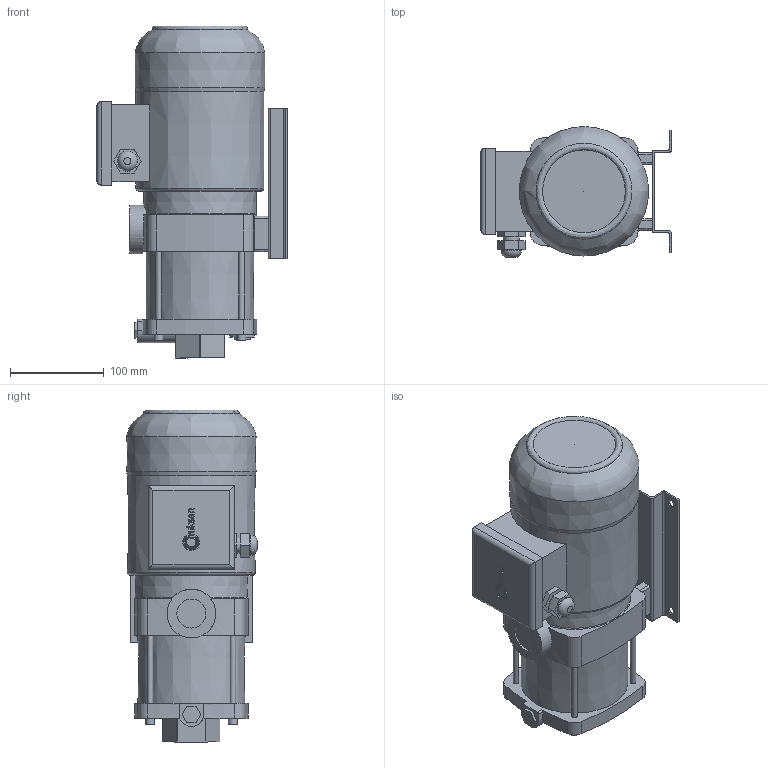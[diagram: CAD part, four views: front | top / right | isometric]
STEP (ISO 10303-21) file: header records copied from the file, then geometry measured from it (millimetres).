
FILE_DESCRIPTION(/* description */ ('Unknown'),/* implementation_level */ '2;1');
FILE_NAME(/* name */ 'hc02',/* time_stamp */ '2025-06-17T14:10:40+03:00',/* author */ ('Unknown'),/* organization */ ('Unknown'),/* preprocessor_version */ 'ST-DEVELOPER v16.7',/* originating_system */ 'DEX',/* authorisation */ $);
FILE_SCHEMA (('AUTOMOTIVE_DESIGN {1 0 10303 214 3 1 1}'));
Length unit declared in the file: millimetre
Products named in the file (1): hc02
Bounding box: 203 x 139.29 x 354.08 mm (x, y, z)
Volume: 4817016.3 mm3; surface area: 262097.1 mm2
Topology: 1 solids, 1 shells, 257 faces, 674 edges, 446 vertices
Faces by surface type: plane 105, bspline 74, cylinder 63, cone 12, torus 3
Full cylindrical faces by diameter (mm): 6 x4, 9 x4, 9.5 x4, 17 x1, 21.5 x1, 26 x1, 31 x1, 39.268 x1, 52 x1
Entity records: 11226 total; most frequent: CARTESIAN_POINT 5412, ORIENTED_EDGE 1266, DIRECTION 987, EDGE_CURVE 633, VERTEX_POINT 435, AXIS2_PLACEMENT_3D 339, FACE_BOUND 332, EDGE_LOOP 331
